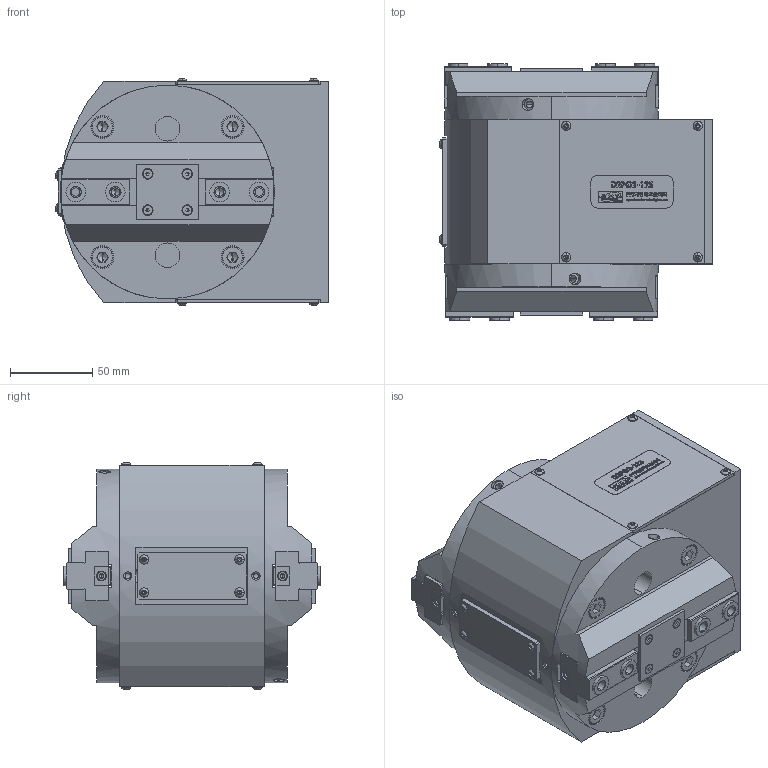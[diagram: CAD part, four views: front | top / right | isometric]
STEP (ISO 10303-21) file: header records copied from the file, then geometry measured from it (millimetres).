
FILE_DESCRIPTION (( 'STEP AP214' ), '1' );
FILE_NAME ('D2PG2 125.STEP', '2012-03-06T00:49:25', ( 'xw4600' ), ( '' ), 'SwSTEP 2.0', 'SolidWorks 2010', '' );
FILE_SCHEMA (( 'AUTOMOTIVE_DESIGN' ));
Length unit declared in the file: millimetre
Products named in the file (18): D2PG2-125-02_Default; D2PG2-125-11_Default; D2PG2-125-01_Default; D2PG2-125-04_Default; D2PG2-125-07_Default; D2PG2-125-06_Default; D2PG2-125-06-1_Default; D2PG2-125-10_Default; D2PG2-125-12_Default; D2PG2-125-SPRING_Default; mark(D2pg2-125)_Default; socket button head screw_ISO 7380 - M3 x 10 --- 10N; socket head cap screw_ISO 4762 M3 x 25 --- 18N; countersunk head screw_ISO 10642 - M3 x 8 --- 8N; socket head cap screw_ISO 4762 M8 x 20 --- 20N; O-ring(S95)_O-ring 95x2.65-B-ISO 3601-1; Q-ring(4212)_Default; D2PG2 125
Assembly tree (65 placements, depth 2):
  D2PG2 125
    D2PG2-125-02_Default
    D2PG2-125-06-1_Default  x2
    socket head cap screw_ISO 4762 M8 x 20 --- 20N  x8
    socket head cap screw_ISO 4762 M3 x 25 --- 18N  x4
    D2PG2-125-10_Default  x8
    socket button head screw_ISO 7380 - M3 x 10 --- 10N  x12
    countersunk head screw_ISO 10642 - M3 x 8 --- 8N  x8
    D2PG2-125-01_Default  x2
    D2PG2-125-06_Default  x2
    D2PG2-125-07_Default  x2
    D2PG2-125-SPRING_Default  x4
    Q-ring(4212)_Default  x2
    D2PG2-125-04_Default  x4
    mark(D2pg2-125)_Default  x2
    O-ring(S95)_O-ring 95x2.65-B-ISO 3601-1
    D2PG2-125-12_Default
    D2PG2-125-11_Default  x2
Bounding box: 166.15 x 156.2 x 138.3 mm (x, y, z)
Volume: 1532776.2 mm3; surface area: 374394.2 mm2
Topology: 65 solids, 67 shells, 3826 faces, 9556 edges, 6022 vertices
Faces by surface type: plane 2083, cylinder 641, bspline 574, cone 324, torus 180, sphere 24
Entity records: 79655 total; most frequent: CARTESIAN_POINT 29447, ORIENTED_EDGE 8392, DIRECTION 7258, EDGE_CURVE 4196, VECTOR 2748, LINE 2748, VERTEX_POINT 2708, AXIS2_PLACEMENT_3D 2255
